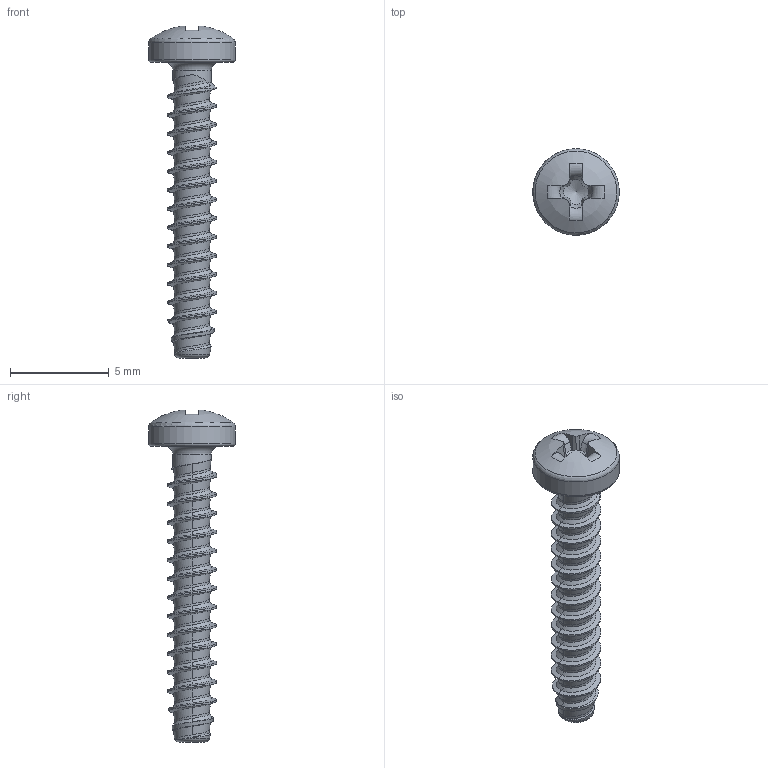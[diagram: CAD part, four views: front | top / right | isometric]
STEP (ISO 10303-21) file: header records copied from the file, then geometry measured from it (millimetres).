
FILE_DESCRIPTION(/* description */ (''),/* implementation_level */ '2;1');
FILE_NAME(/* name */ 'KN6032-STSplus-25x15-H1.step',/* time_stamp */ '2017-10-10T15:01:43+02:00',/* author */ (''),/* organization */ (''),/* preprocessor_version */ 'ST-DEVELOPER v16',/* originating_system */ 'SIEMENS PLM Software NX 10.0',/* authorisation */ '');
FILE_SCHEMA (('AUTOMOTIVE_DESIGN { 1 0 10303 214 3 1 1 1 }'));
Length unit declared in the file: millimetre
Products named in the file (1): KN6032-STSplus-25x15-H1
Bounding box: 4.4 x 4.4 x 16.85 mm (x, y, z)
Volume: 65.7 mm3; surface area: 182.9 mm2
Topology: 1 solids, 1 shells, 102 faces, 267 edges, 167 vertices
Faces by surface type: bspline 64, plane 18, torus 8, cone 7, cylinder 4, sphere 1
Full cylindrical faces by diameter (mm): 1.97 x1, 4.4 x1
Entity records: 6956 total; most frequent: CARTESIAN_POINT 4950, ORIENTED_EDGE 506, EDGE_CURVE 253, DIRECTION 228, VERTEX_POINT 162, B_SPLINE_CURVE_WITH_KNOTS 142, EDGE_LOOP 110, ADVANCED_FACE 102
